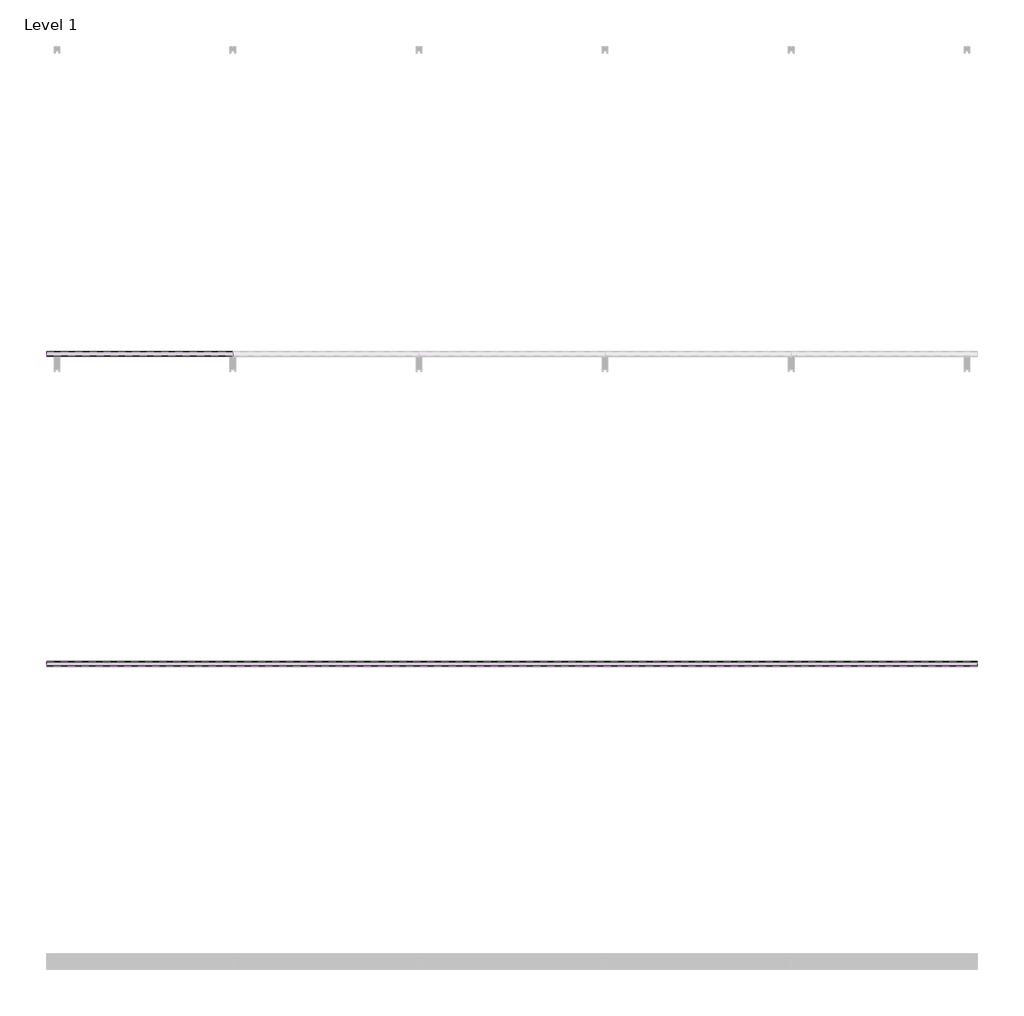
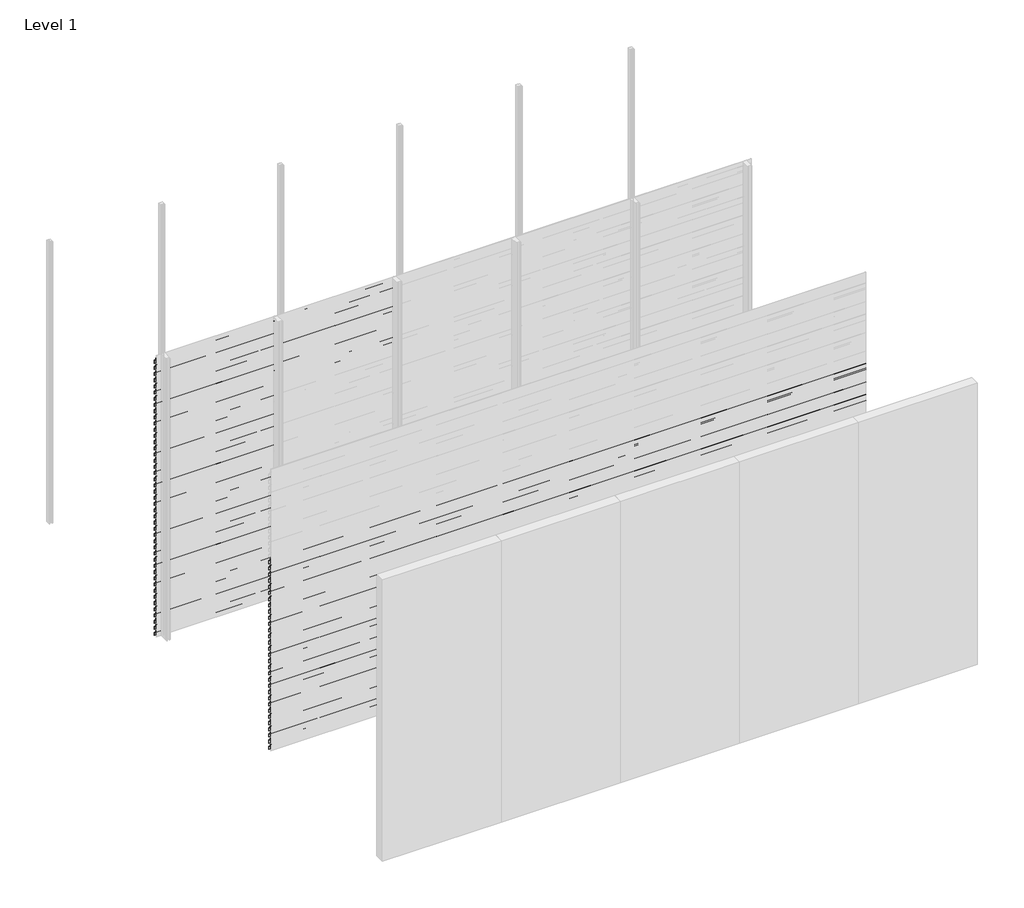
# One storey, part 22 of 33: 88 proxies.
"""IFC4 building model written with IfcOpenShell, lengths in millimetres."""

from ifc_helpers import new_model, si_unit, frame, origin, place, context, project, spatial, polyline, outline, extrude, element, save

model = new_model("IFC4")

# Units and contexts
model_context = context("Model", 3, world=origin())
ifc_project = project(units=[si_unit("LENGTHUNIT", "METRE", prefix="MILLI")], contexts=[model_context])

# Site, building, storey
site = spatial("IfcSite", under=ifc_project)
building = spatial("IfcBuilding", under=site)
storey = spatial("IfcBuildingStorey", under=building, Name="Level 1", Elevation=0.0)

# Proxies
placement = place(None, origin())
element("IfcBuildingElementProxy", 1, Name="Wall Sweeps", at=placement, inside=storey, context=model_context, shape_type="SweptSolid", body=[
    extrude(outline(polyline([(-17967.0, 2930.0), (-17967.0, 2897.0), (-17968.25, 2897.7216933), (-17968.25, 2929.2872415), (-17998.0, 2950.0588647), (-17998.0, 2970.0), (-17996.75, 2970.0), (-17996.75, 2950.7716232), (-17967.0, 2930.0)])), frame((0.0, 0.0, 0.0), z_axis=(1.0, 0.0, 0.0), x_axis=(0.0, 1.0, 0.0)), (0.0, 0.0, 1.0), 1200.0),
])
element("IfcBuildingElementProxy", 2, Name="Wall Sweeps", at=placement, inside=storey, context=model_context, shape_type="SweptSolid", body=[
    extrude(outline(polyline([(-17967.0, 2864.0), (-17967.0, 2831.0), (-17968.25, 2831.7216933), (-17968.25, 2863.2872415), (-17998.0, 2884.0588647), (-17998.0, 2904.0), (-17996.75, 2904.0), (-17996.75, 2884.7716232), (-17967.0, 2864.0)])), frame((0.0, 0.0, 0.0), z_axis=(1.0, 0.0, 0.0), x_axis=(0.0, 1.0, 0.0)), (0.0, 0.0, 1.0), 1200.0),
])
element("IfcBuildingElementProxy", 3, Name="Wall Sweeps", at=placement, inside=storey, context=model_context, shape_type="SweptSolid", body=[
    extrude(outline(polyline([(-17967.0, 2798.0), (-17967.0, 2765.0), (-17968.25, 2765.7216933), (-17968.25, 2797.2872415), (-17998.0, 2818.0588647), (-17998.0, 2838.0), (-17996.75, 2838.0), (-17996.75, 2818.7716232), (-17967.0, 2798.0)])), frame((0.0, 0.0, 0.0), z_axis=(1.0, 0.0, 0.0), x_axis=(0.0, 1.0, 0.0)), (0.0, 0.0, 1.0), 1200.0),
])
element("IfcBuildingElementProxy", 4, Name="Wall Sweeps", at=placement, inside=storey, context=model_context, shape_type="SweptSolid", body=[
    extrude(outline(polyline([(-17967.0, 2732.0), (-17967.0, 2699.0), (-17968.25, 2699.7216933), (-17968.25, 2731.2872415), (-17998.0, 2752.0588647), (-17998.0, 2772.0), (-17996.75, 2772.0), (-17996.75, 2752.7716232), (-17967.0, 2732.0)])), frame((0.0, 0.0, 0.0), z_axis=(1.0, 0.0, 0.0), x_axis=(0.0, 1.0, 0.0)), (0.0, 0.0, 1.0), 1200.0),
])
element("IfcBuildingElementProxy", 5, Name="Wall Sweeps", at=placement, inside=storey, context=model_context, shape_type="SweptSolid", body=[
    extrude(outline(polyline([(-17967.0, 2666.0), (-17967.0, 2633.0), (-17968.25, 2633.7216933), (-17968.25, 2665.2872415), (-17998.0, 2686.0588647), (-17998.0, 2706.0), (-17996.75, 2706.0), (-17996.75, 2686.7716232), (-17967.0, 2666.0)])), frame((0.0, 0.0, 0.0), z_axis=(1.0, 0.0, 0.0), x_axis=(0.0, 1.0, 0.0)), (0.0, 0.0, 1.0), 1200.0),
])
element("IfcBuildingElementProxy", 6, Name="Wall Sweeps", at=placement, inside=storey, context=model_context, shape_type="SweptSolid", body=[
    extrude(outline(polyline([(-17967.0, 2600.0), (-17967.0, 2567.0), (-17968.25, 2567.7216933), (-17968.25, 2599.2872415), (-17998.0, 2620.0588647), (-17998.0, 2640.0), (-17996.75, 2640.0), (-17996.75, 2620.7716232), (-17967.0, 2600.0)])), frame((0.0, 0.0, 0.0), z_axis=(1.0, 0.0, 0.0), x_axis=(0.0, 1.0, 0.0)), (0.0, 0.0, 1.0), 1200.0),
])
element("IfcBuildingElementProxy", 7, Name="Wall Sweeps", at=placement, inside=storey, context=model_context, shape_type="SweptSolid", body=[
    extrude(outline(polyline([(-17967.0, 2534.0), (-17967.0, 2501.0), (-17968.25, 2501.7216933), (-17968.25, 2533.2872415), (-17998.0, 2554.0588647), (-17998.0, 2574.0), (-17996.75, 2574.0), (-17996.75, 2554.7716232), (-17967.0, 2534.0)])), frame((0.0, 0.0, 0.0), z_axis=(1.0, 0.0, 0.0), x_axis=(0.0, 1.0, 0.0)), (0.0, 0.0, 1.0), 1200.0),
])
element("IfcBuildingElementProxy", 8, Name="Wall Sweeps", at=placement, inside=storey, context=model_context, shape_type="SweptSolid", body=[
    extrude(outline(polyline([(-17967.0, 2468.0), (-17967.0, 2435.0), (-17968.25, 2435.7216933), (-17968.25, 2467.2872415), (-17998.0, 2488.0588647), (-17998.0, 2508.0), (-17996.75, 2508.0), (-17996.75, 2488.7716232), (-17967.0, 2468.0)])), frame((0.0, 0.0, 0.0), z_axis=(1.0, 0.0, 0.0), x_axis=(0.0, 1.0, 0.0)), (0.0, 0.0, 1.0), 1200.0),
])
element("IfcBuildingElementProxy", 9, Name="Wall Sweeps", at=placement, inside=storey, context=model_context, shape_type="SweptSolid", body=[
    extrude(outline(polyline([(-17967.0, 2402.0), (-17967.0, 2369.0), (-17968.25, 2369.7216933), (-17968.25, 2401.2872415), (-17998.0, 2422.0588647), (-17998.0, 2442.0), (-17996.75, 2442.0), (-17996.75, 2422.7716232), (-17967.0, 2402.0)])), frame((0.0, 0.0, 0.0), z_axis=(1.0, 0.0, 0.0), x_axis=(0.0, 1.0, 0.0)), (0.0, 0.0, 1.0), 1200.0),
])
element("IfcBuildingElementProxy", 10, Name="Wall Sweeps", at=placement, inside=storey, context=model_context, shape_type="SweptSolid", body=[
    extrude(outline(polyline([(-17967.0, 2336.0), (-17967.0, 2303.0), (-17968.25, 2303.7216933), (-17968.25, 2335.2872415), (-17998.0, 2356.0588647), (-17998.0, 2376.0), (-17996.75, 2376.0), (-17996.75, 2356.7716232), (-17967.0, 2336.0)])), frame((0.0, 0.0, 0.0), z_axis=(1.0, 0.0, 0.0), x_axis=(0.0, 1.0, 0.0)), (0.0, 0.0, 1.0), 1200.0),
])
element("IfcBuildingElementProxy", 11, Name="Wall Sweeps", at=placement, inside=storey, context=model_context, shape_type="SweptSolid", body=[
    extrude(outline(polyline([(-17967.0, 2270.0), (-17967.0, 2237.0), (-17968.25, 2237.7216933), (-17968.25, 2269.2872415), (-17998.0, 2290.0588647), (-17998.0, 2310.0), (-17996.75, 2310.0), (-17996.75, 2290.7716232), (-17967.0, 2270.0)])), frame((0.0, 0.0, 0.0), z_axis=(1.0, 0.0, 0.0), x_axis=(0.0, 1.0, 0.0)), (0.0, 0.0, 1.0), 1200.0),
])
element("IfcBuildingElementProxy", 12, Name="Wall Sweeps", at=placement, inside=storey, context=model_context, shape_type="SweptSolid", body=[
    extrude(outline(polyline([(-17967.0, 2204.0), (-17967.0, 2171.0), (-17968.25, 2171.7216933), (-17968.25, 2203.2872415), (-17998.0, 2224.0588647), (-17998.0, 2244.0), (-17996.75, 2244.0), (-17996.75, 2224.7716232), (-17967.0, 2204.0)])), frame((0.0, 0.0, 0.0), z_axis=(1.0, 0.0, 0.0), x_axis=(0.0, 1.0, 0.0)), (0.0, 0.0, 1.0), 1200.0),
])
element("IfcBuildingElementProxy", 13, Name="Wall Sweeps", at=placement, inside=storey, context=model_context, shape_type="SweptSolid", body=[
    extrude(outline(polyline([(-17967.0, 2138.0), (-17967.0, 2105.0), (-17968.25, 2105.7216933), (-17968.25, 2137.2872415), (-17998.0, 2158.0588647), (-17998.0, 2178.0), (-17996.75, 2178.0), (-17996.75, 2158.7716232), (-17967.0, 2138.0)])), frame((0.0, 0.0, 0.0), z_axis=(1.0, 0.0, 0.0), x_axis=(0.0, 1.0, 0.0)), (0.0, 0.0, 1.0), 1200.0),
])
element("IfcBuildingElementProxy", 14, Name="Wall Sweeps", at=placement, inside=storey, context=model_context, shape_type="SweptSolid", body=[
    extrude(outline(polyline([(-17967.0, 2072.0), (-17967.0, 2039.0), (-17968.25, 2039.7216933), (-17968.25, 2071.2872415), (-17998.0, 2092.0588647), (-17998.0, 2112.0), (-17996.75, 2112.0), (-17996.75, 2092.7716232), (-17967.0, 2072.0)])), frame((0.0, 0.0, 0.0), z_axis=(1.0, 0.0, 0.0), x_axis=(0.0, 1.0, 0.0)), (0.0, 0.0, 1.0), 1200.0),
])
element("IfcBuildingElementProxy", 15, Name="Wall Sweeps", at=placement, inside=storey, context=model_context, shape_type="SweptSolid", body=[
    extrude(outline(polyline([(-17967.0, 2006.0), (-17967.0, 1973.0), (-17968.25, 1973.7216933), (-17968.25, 2005.2872415), (-17998.0, 2026.0588647), (-17998.0, 2046.0), (-17996.75, 2046.0), (-17996.75, 2026.7716232), (-17967.0, 2006.0)])), frame((0.0, 0.0, 0.0), z_axis=(1.0, 0.0, 0.0), x_axis=(0.0, 1.0, 0.0)), (0.0, 0.0, 1.0), 1200.0),
])
element("IfcBuildingElementProxy", 16, Name="Wall Sweeps", at=placement, inside=storey, context=model_context, shape_type="SweptSolid", body=[
    extrude(outline(polyline([(-17967.0, 1940.0), (-17967.0, 1907.0), (-17968.25, 1907.7216933), (-17968.25, 1939.2872415), (-17998.0, 1960.0588647), (-17998.0, 1980.0), (-17996.75, 1980.0), (-17996.75, 1960.7716232), (-17967.0, 1940.0)])), frame((0.0, 0.0, 0.0), z_axis=(1.0, 0.0, 0.0), x_axis=(0.0, 1.0, 0.0)), (0.0, 0.0, 1.0), 1200.0),
])
element("IfcBuildingElementProxy", 17, Name="Wall Sweeps", at=placement, inside=storey, context=model_context, shape_type="SweptSolid", body=[
    extrude(outline(polyline([(-17967.0, 1874.0), (-17967.0, 1841.0), (-17968.25, 1841.7216933), (-17968.25, 1873.2872415), (-17998.0, 1894.0588647), (-17998.0, 1914.0), (-17996.75, 1914.0), (-17996.75, 1894.7716232), (-17967.0, 1874.0)])), frame((0.0, 0.0, 0.0), z_axis=(1.0, 0.0, 0.0), x_axis=(0.0, 1.0, 0.0)), (0.0, 0.0, 1.0), 1200.0),
])
element("IfcBuildingElementProxy", 18, Name="Wall Sweeps", at=placement, inside=storey, context=model_context, shape_type="SweptSolid", body=[
    extrude(outline(polyline([(-17967.0, 1808.0), (-17967.0, 1775.0), (-17968.25, 1775.7216933), (-17968.25, 1807.2872415), (-17998.0, 1828.0588647), (-17998.0, 1848.0), (-17996.75, 1848.0), (-17996.75, 1828.7716232), (-17967.0, 1808.0)])), frame((0.0, 0.0, 0.0), z_axis=(1.0, 0.0, 0.0), x_axis=(0.0, 1.0, 0.0)), (0.0, 0.0, 1.0), 1200.0),
])
element("IfcBuildingElementProxy", 19, Name="Wall Sweeps", at=placement, inside=storey, context=model_context, shape_type="SweptSolid", body=[
    extrude(outline(polyline([(-17967.0, 1742.0), (-17967.0, 1709.0), (-17968.25, 1709.7216933), (-17968.25, 1741.2872415), (-17998.0, 1762.0588647), (-17998.0, 1782.0), (-17996.75, 1782.0), (-17996.75, 1762.7716232), (-17967.0, 1742.0)])), frame((0.0, 0.0, 0.0), z_axis=(1.0, 0.0, 0.0), x_axis=(0.0, 1.0, 0.0)), (0.0, 0.0, 1.0), 1200.0),
])
element("IfcBuildingElementProxy", 20, Name="Wall Sweeps", at=placement, inside=storey, context=model_context, shape_type="SweptSolid", body=[
    extrude(outline(polyline([(-17967.0, 1676.0), (-17967.0, 1643.0), (-17968.25, 1643.7216933), (-17968.25, 1675.2872415), (-17998.0, 1696.0588647), (-17998.0, 1716.0), (-17996.75, 1716.0), (-17996.75, 1696.7716232), (-17967.0, 1676.0)])), frame((0.0, 0.0, 0.0), z_axis=(1.0, 0.0, 0.0), x_axis=(0.0, 1.0, 0.0)), (0.0, 0.0, 1.0), 1200.0),
])
element("IfcBuildingElementProxy", 21, Name="Wall Sweeps", at=placement, inside=storey, context=model_context, shape_type="SweptSolid", body=[
    extrude(outline(polyline([(-17967.0, 1610.0), (-17967.0, 1577.0), (-17968.25, 1577.7216933), (-17968.25, 1609.2872415), (-17998.0, 1630.0588647), (-17998.0, 1650.0), (-17996.75, 1650.0), (-17996.75, 1630.7716232), (-17967.0, 1610.0)])), frame((0.0, 0.0, 0.0), z_axis=(1.0, 0.0, 0.0), x_axis=(0.0, 1.0, 0.0)), (0.0, 0.0, 1.0), 1200.0),
])
element("IfcBuildingElementProxy", 22, Name="Wall Sweeps", at=placement, inside=storey, context=model_context, shape_type="SweptSolid", body=[
    extrude(outline(polyline([(-17967.0, 1544.0), (-17967.0, 1511.0), (-17968.25, 1511.7216933), (-17968.25, 1543.2872415), (-17998.0, 1564.0588647), (-17998.0, 1584.0), (-17996.75, 1584.0), (-17996.75, 1564.7716232), (-17967.0, 1544.0)])), frame((0.0, 0.0, 0.0), z_axis=(1.0, 0.0, 0.0), x_axis=(0.0, 1.0, 0.0)), (0.0, 0.0, 1.0), 1200.0),
])
element("IfcBuildingElementProxy", 23, Name="Wall Sweeps", at=placement, inside=storey, context=model_context, shape_type="SweptSolid", body=[
    extrude(outline(polyline([(-17967.0, 1478.0), (-17967.0, 1445.0), (-17968.25, 1445.7216933), (-17968.25, 1477.2872415), (-17998.0, 1498.0588647), (-17998.0, 1518.0), (-17996.75, 1518.0), (-17996.75, 1498.7716232), (-17967.0, 1478.0)])), frame((0.0, 0.0, 0.0), z_axis=(1.0, 0.0, 0.0), x_axis=(0.0, 1.0, 0.0)), (0.0, 0.0, 1.0), 1200.0),
])
element("IfcBuildingElementProxy", 24, Name="Wall Sweeps", at=placement, inside=storey, context=model_context, shape_type="SweptSolid", body=[
    extrude(outline(polyline([(-17967.0, 1412.0), (-17967.0, 1379.0), (-17968.25, 1379.7216933), (-17968.25, 1411.2872415), (-17998.0, 1432.0588647), (-17998.0, 1452.0), (-17996.75, 1452.0), (-17996.75, 1432.7716232), (-17967.0, 1412.0)])), frame((0.0, 0.0, 0.0), z_axis=(1.0, 0.0, 0.0), x_axis=(0.0, 1.0, 0.0)), (0.0, 0.0, 1.0), 1200.0),
])
element("IfcBuildingElementProxy", 25, Name="Wall Sweeps", at=placement, inside=storey, context=model_context, shape_type="SweptSolid", body=[
    extrude(outline(polyline([(-17967.0, 1346.0), (-17967.0, 1313.0), (-17968.25, 1313.7216933), (-17968.25, 1345.2872415), (-17998.0, 1366.0588647), (-17998.0, 1386.0), (-17996.75, 1386.0), (-17996.75, 1366.7716232), (-17967.0, 1346.0)])), frame((0.0, 0.0, 0.0), z_axis=(1.0, 0.0, 0.0), x_axis=(0.0, 1.0, 0.0)), (0.0, 0.0, 1.0), 1200.0),
])
element("IfcBuildingElementProxy", 26, Name="Wall Sweeps", at=placement, inside=storey, context=model_context, shape_type="SweptSolid", body=[
    extrude(outline(polyline([(-17967.0, 1280.0), (-17967.0, 1247.0), (-17968.25, 1247.7216933), (-17968.25, 1279.2872415), (-17998.0, 1300.0588647), (-17998.0, 1320.0), (-17996.75, 1320.0), (-17996.75, 1300.7716232), (-17967.0, 1280.0)])), frame((0.0, 0.0, 0.0), z_axis=(1.0, 0.0, 0.0), x_axis=(0.0, 1.0, 0.0)), (0.0, 0.0, 1.0), 1200.0),
])
element("IfcBuildingElementProxy", 27, Name="Wall Sweeps", at=placement, inside=storey, context=model_context, shape_type="SweptSolid", body=[
    extrude(outline(polyline([(-17967.0, 1214.0), (-17967.0, 1181.0), (-17968.25, 1181.7216933), (-17968.25, 1213.2872415), (-17998.0, 1234.0588647), (-17998.0, 1254.0), (-17996.75, 1254.0), (-17996.75, 1234.7716232), (-17967.0, 1214.0)])), frame((0.0, 0.0, 0.0), z_axis=(1.0, 0.0, 0.0), x_axis=(0.0, 1.0, 0.0)), (0.0, 0.0, 1.0), 1200.0),
])
element("IfcBuildingElementProxy", 28, Name="Wall Sweeps", at=placement, inside=storey, context=model_context, shape_type="SweptSolid", body=[
    extrude(outline(polyline([(-17967.0, 1148.0), (-17967.0, 1115.0), (-17968.25, 1115.7216933), (-17968.25, 1147.2872415), (-17998.0, 1168.0588647), (-17998.0, 1188.0), (-17996.75, 1188.0), (-17996.75, 1168.7716232), (-17967.0, 1148.0)])), frame((0.0, 0.0, 0.0), z_axis=(1.0, 0.0, 0.0), x_axis=(0.0, 1.0, 0.0)), (0.0, 0.0, 1.0), 1200.0),
])
element("IfcBuildingElementProxy", 29, Name="Wall Sweeps", at=placement, inside=storey, context=model_context, shape_type="SweptSolid", body=[
    extrude(outline(polyline([(-17967.0, 1082.0), (-17967.0, 1049.0), (-17968.25, 1049.7216933), (-17968.25, 1081.2872415), (-17998.0, 1102.0588647), (-17998.0, 1122.0), (-17996.75, 1122.0), (-17996.75, 1102.7716232), (-17967.0, 1082.0)])), frame((0.0, 0.0, 0.0), z_axis=(1.0, 0.0, 0.0), x_axis=(0.0, 1.0, 0.0)), (0.0, 0.0, 1.0), 1200.0),
])
element("IfcBuildingElementProxy", 30, Name="Wall Sweeps", at=placement, inside=storey, context=model_context, shape_type="SweptSolid", body=[
    extrude(outline(polyline([(-17967.0, 1016.0), (-17967.0, 983.0), (-17968.25, 983.7216933), (-17968.25, 1015.2872415), (-17998.0, 1036.0588647), (-17998.0, 1056.0), (-17996.75, 1056.0), (-17996.75, 1036.7716232), (-17967.0, 1016.0)])), frame((0.0, 0.0, 0.0), z_axis=(1.0, 0.0, 0.0), x_axis=(0.0, 1.0, 0.0)), (0.0, 0.0, 1.0), 1200.0),
])
element("IfcBuildingElementProxy", 31, Name="Wall Sweeps", at=placement, inside=storey, context=model_context, shape_type="SweptSolid", body=[
    extrude(outline(polyline([(-17967.0, 950.0), (-17967.0, 917.0), (-17968.25, 917.7216933), (-17968.25, 949.2872415), (-17998.0, 970.0588647), (-17998.0, 990.0), (-17996.75, 990.0), (-17996.75, 970.7716232), (-17967.0, 950.0)])), frame((0.0, 0.0, 0.0), z_axis=(1.0, 0.0, 0.0), x_axis=(0.0, 1.0, 0.0)), (0.0, 0.0, 1.0), 1200.0),
])
element("IfcBuildingElementProxy", 32, Name="Wall Sweeps", at=placement, inside=storey, context=model_context, shape_type="SweptSolid", body=[
    extrude(outline(polyline([(-17967.0, 884.0), (-17967.0, 851.0), (-17968.25, 851.7216933), (-17968.25, 883.2872415), (-17998.0, 904.0588647), (-17998.0, 924.0), (-17996.75, 924.0), (-17996.75, 904.7716232), (-17967.0, 884.0)])), frame((0.0, 0.0, 0.0), z_axis=(1.0, 0.0, 0.0), x_axis=(0.0, 1.0, 0.0)), (0.0, 0.0, 1.0), 1200.0),
])
element("IfcBuildingElementProxy", 33, Name="Wall Sweeps", at=placement, inside=storey, context=model_context, shape_type="SweptSolid", body=[
    extrude(outline(polyline([(-17967.0, 818.0), (-17967.0, 785.0), (-17968.25, 785.7216933), (-17968.25, 817.2872415), (-17998.0, 838.0588647), (-17998.0, 858.0), (-17996.75, 858.0), (-17996.75, 838.7716232), (-17967.0, 818.0)])), frame((0.0, 0.0, 0.0), z_axis=(1.0, 0.0, 0.0), x_axis=(0.0, 1.0, 0.0)), (0.0, 0.0, 1.0), 1200.0),
])
element("IfcBuildingElementProxy", 34, Name="Wall Sweeps", at=placement, inside=storey, context=model_context, shape_type="SweptSolid", body=[
    extrude(outline(polyline([(-17967.0, 752.0), (-17967.0, 719.0), (-17968.25, 719.7216933), (-17968.25, 751.2872415), (-17998.0, 772.0588647), (-17998.0, 792.0), (-17996.75, 792.0), (-17996.75, 772.7716232), (-17967.0, 752.0)])), frame((0.0, 0.0, 0.0), z_axis=(1.0, 0.0, 0.0), x_axis=(0.0, 1.0, 0.0)), (0.0, 0.0, 1.0), 1200.0),
])
element("IfcBuildingElementProxy", 35, Name="Wall Sweeps", at=placement, inside=storey, context=model_context, shape_type="SweptSolid", body=[
    extrude(outline(polyline([(-17967.0, 686.0), (-17967.0, 653.0), (-17968.25, 653.7216933), (-17968.25, 685.2872415), (-17998.0, 706.0588647), (-17998.0, 726.0), (-17996.75, 726.0), (-17996.75, 706.7716232), (-17967.0, 686.0)])), frame((0.0, 0.0, 0.0), z_axis=(1.0, 0.0, 0.0), x_axis=(0.0, 1.0, 0.0)), (0.0, 0.0, 1.0), 1200.0),
])
element("IfcBuildingElementProxy", 36, Name="Wall Sweeps", at=placement, inside=storey, context=model_context, shape_type="SweptSolid", body=[
    extrude(outline(polyline([(-17967.0, 620.0), (-17967.0, 587.0), (-17968.25, 587.7216933), (-17968.25, 619.2872415), (-17998.0, 640.0588647), (-17998.0, 660.0), (-17996.75, 660.0), (-17996.75, 640.7716232), (-17967.0, 620.0)])), frame((0.0, 0.0, 0.0), z_axis=(1.0, 0.0, 0.0), x_axis=(0.0, 1.0, 0.0)), (0.0, 0.0, 1.0), 1200.0),
])
element("IfcBuildingElementProxy", 37, Name="Wall Sweeps", at=placement, inside=storey, context=model_context, shape_type="SweptSolid", body=[
    extrude(outline(polyline([(-17967.0, 554.0), (-17967.0, 521.0), (-17968.25, 521.7216933), (-17968.25, 553.2872415), (-17998.0, 574.0588647), (-17998.0, 594.0), (-17996.75, 594.0), (-17996.75, 574.7716232), (-17967.0, 554.0)])), frame((0.0, 0.0, 0.0), z_axis=(1.0, 0.0, 0.0), x_axis=(0.0, 1.0, 0.0)), (0.0, 0.0, 1.0), 1200.0),
])
element("IfcBuildingElementProxy", 38, Name="Wall Sweeps", at=placement, inside=storey, context=model_context, shape_type="SweptSolid", body=[
    extrude(outline(polyline([(-17967.0, 488.0), (-17967.0, 455.0), (-17968.25, 455.7216933), (-17968.25, 487.2872415), (-17998.0, 508.0588647), (-17998.0, 528.0), (-17996.75, 528.0), (-17996.75, 508.7716232), (-17967.0, 488.0)])), frame((0.0, 0.0, 0.0), z_axis=(1.0, 0.0, 0.0), x_axis=(0.0, 1.0, 0.0)), (0.0, 0.0, 1.0), 1200.0),
])
element("IfcBuildingElementProxy", 39, Name="Wall Sweeps", at=placement, inside=storey, context=model_context, shape_type="SweptSolid", body=[
    extrude(outline(polyline([(-17967.0, 422.0), (-17967.0, 389.0), (-17968.25, 389.7216933), (-17968.25, 421.2872415), (-17998.0, 442.0588647), (-17998.0, 462.0), (-17996.75, 462.0), (-17996.75, 442.7716232), (-17967.0, 422.0)])), frame((0.0, 0.0, 0.0), z_axis=(1.0, 0.0, 0.0), x_axis=(0.0, 1.0, 0.0)), (0.0, 0.0, 1.0), 1200.0),
])
element("IfcBuildingElementProxy", 40, Name="Wall Sweeps", at=placement, inside=storey, context=model_context, shape_type="SweptSolid", body=[
    extrude(outline(polyline([(-17967.0, 356.0), (-17967.0, 323.0), (-17968.25, 323.7216933), (-17968.25, 355.2872415), (-17998.0, 376.0588647), (-17998.0, 396.0), (-17996.75, 396.0), (-17996.75, 376.7716232), (-17967.0, 356.0)])), frame((0.0, 0.0, 0.0), z_axis=(1.0, 0.0, 0.0), x_axis=(0.0, 1.0, 0.0)), (0.0, 0.0, 1.0), 1200.0),
])
element("IfcBuildingElementProxy", 41, Name="Wall Sweeps", at=placement, inside=storey, context=model_context, shape_type="SweptSolid", body=[
    extrude(outline(polyline([(-17967.0, 290.0), (-17967.0, 257.0), (-17968.25, 257.7216933), (-17968.25, 289.2872415), (-17998.0, 310.0588647), (-17998.0, 330.0), (-17996.75, 330.0), (-17996.75, 310.7716232), (-17967.0, 290.0)])), frame((0.0, 0.0, 0.0), z_axis=(1.0, 0.0, 0.0), x_axis=(0.0, 1.0, 0.0)), (0.0, 0.0, 1.0), 1200.0),
])
element("IfcBuildingElementProxy", 42, Name="Wall Sweeps", at=placement, inside=storey, context=model_context, shape_type="SweptSolid", body=[
    extrude(outline(polyline([(-17967.0, 224.0), (-17967.0, 191.0), (-17968.25, 191.7216933), (-17968.25, 223.2872415), (-17998.0, 244.0588647), (-17998.0, 264.0), (-17996.75, 264.0), (-17996.75, 244.7716232), (-17967.0, 224.0)])), frame((0.0, 0.0, 0.0), z_axis=(1.0, 0.0, 0.0), x_axis=(0.0, 1.0, 0.0)), (0.0, 0.0, 1.0), 1200.0),
])
element("IfcBuildingElementProxy", 43, Name="Wall Sweeps", at=placement, inside=storey, context=model_context, shape_type="SweptSolid", body=[
    extrude(outline(polyline([(-17967.0, 158.0), (-17967.0, 125.0), (-17968.25, 125.7216933), (-17968.25, 157.2872415), (-17998.0, 178.0588647), (-17998.0, 198.0), (-17996.75, 198.0), (-17996.75, 178.7716232), (-17967.0, 158.0)])), frame((0.0, 0.0, 0.0), z_axis=(1.0, 0.0, 0.0), x_axis=(0.0, 1.0, 0.0)), (0.0, 0.0, 1.0), 1200.0),
])
element("IfcBuildingElementProxy", 44, Name="Wall Sweeps", at=placement, inside=storey, context=model_context, shape_type="SweptSolid", body=[
    extrude(outline(polyline([(-17967.0, 92.0), (-17967.0, 59.0), (-17968.25, 59.7216933), (-17968.25, 91.2872415), (-17998.0, 112.0588647), (-17998.0, 132.0), (-17996.75, 132.0), (-17996.75, 112.7716232), (-17967.0, 92.0)])), frame((0.0, 0.0, 0.0), z_axis=(1.0, 0.0, 0.0), x_axis=(0.0, 1.0, 0.0)), (0.0, 0.0, 1.0), 1200.0),
])
element("IfcBuildingElementProxy", 45, Name="Wall Sweeps", at=placement, inside=storey, context=model_context, shape_type="SweptSolid", body=[
    extrude(outline(polyline([(-17967.0, 26.0), (-17967.0, -7.0), (-17968.25, -6.2783067), (-17968.25, 25.2872415), (-17998.0, 46.0588647), (-17998.0, 66.0), (-17996.75, 66.0), (-17996.75, 46.7716232), (-17967.0, 26.0)])), frame((0.0, 0.0, 0.0), z_axis=(1.0, 0.0, 0.0), x_axis=(0.0, 1.0, 0.0)), (0.0, 0.0, 1.0), 1200.0),
])
element("IfcBuildingElementProxy", 46, Name="Wall Sweeps", at=placement, inside=storey, context=model_context, shape_type="SweptSolid", body=[
    extrude(outline(polyline([(-17967.0, 2930.0), (-17967.0, 2897.0), (-17968.25, 2897.7216933), (-17968.25, 2929.2872415), (-17998.0, 2950.0588647), (-17998.0, 2970.0), (-17996.75, 2970.0), (-17996.75, 2950.7716232), (-17967.0, 2930.0)])), frame((1200.0, 0.0, 0.0), z_axis=(1.0, 0.0, 0.0), x_axis=(0.0, 1.0, 0.0)), (0.0, 0.0, 1.0), 1200.0),
])
element("IfcBuildingElementProxy", 47, Name="Wall Sweeps", at=placement, inside=storey, context=model_context, shape_type="SweptSolid", body=[
    extrude(outline(polyline([(-17967.0, 2864.0), (-17967.0, 2831.0), (-17968.25, 2831.7216933), (-17968.25, 2863.2872415), (-17998.0, 2884.0588647), (-17998.0, 2904.0), (-17996.75, 2904.0), (-17996.75, 2884.7716232), (-17967.0, 2864.0)])), frame((1200.0, 0.0, 0.0), z_axis=(1.0, 0.0, 0.0), x_axis=(0.0, 1.0, 0.0)), (0.0, 0.0, 1.0), 1200.0),
])
element("IfcBuildingElementProxy", 48, Name="Wall Sweeps", at=placement, inside=storey, context=model_context, shape_type="SweptSolid", body=[
    extrude(outline(polyline([(-17967.0, 2798.0), (-17967.0, 2765.0), (-17968.25, 2765.7216933), (-17968.25, 2797.2872415), (-17998.0, 2818.0588647), (-17998.0, 2838.0), (-17996.75, 2838.0), (-17996.75, 2818.7716232), (-17967.0, 2798.0)])), frame((1200.0, 0.0, 0.0), z_axis=(1.0, 0.0, 0.0), x_axis=(0.0, 1.0, 0.0)), (0.0, 0.0, 1.0), 1200.0),
])
element("IfcBuildingElementProxy", 49, Name="Wall Sweeps", at=placement, inside=storey, context=model_context, shape_type="SweptSolid", body=[
    extrude(outline(polyline([(-17967.0, 2732.0), (-17967.0, 2699.0), (-17968.25, 2699.7216933), (-17968.25, 2731.2872415), (-17998.0, 2752.0588647), (-17998.0, 2772.0), (-17996.75, 2772.0), (-17996.75, 2752.7716232), (-17967.0, 2732.0)])), frame((1200.0, 0.0, 0.0), z_axis=(1.0, 0.0, 0.0), x_axis=(0.0, 1.0, 0.0)), (0.0, 0.0, 1.0), 1200.0),
])
element("IfcBuildingElementProxy", 50, Name="Wall Sweeps", at=placement, inside=storey, context=model_context, shape_type="SweptSolid", body=[
    extrude(outline(polyline([(-17967.0, 2666.0), (-17967.0, 2633.0), (-17968.25, 2633.7216933), (-17968.25, 2665.2872415), (-17998.0, 2686.0588647), (-17998.0, 2706.0), (-17996.75, 2706.0), (-17996.75, 2686.7716232), (-17967.0, 2666.0)])), frame((1200.0, 0.0, 0.0), z_axis=(1.0, 0.0, 0.0), x_axis=(0.0, 1.0, 0.0)), (0.0, 0.0, 1.0), 1200.0),
])
element("IfcBuildingElementProxy", 51, Name="Wall Sweeps", at=placement, inside=storey, context=model_context, shape_type="SweptSolid", body=[
    extrude(outline(polyline([(-17967.0, 2600.0), (-17967.0, 2567.0), (-17968.25, 2567.7216933), (-17968.25, 2599.2872415), (-17998.0, 2620.0588647), (-17998.0, 2640.0), (-17996.75, 2640.0), (-17996.75, 2620.7716232), (-17967.0, 2600.0)])), frame((1200.0, 0.0, 0.0), z_axis=(1.0, 0.0, 0.0), x_axis=(0.0, 1.0, 0.0)), (0.0, 0.0, 1.0), 1200.0),
])
element("IfcBuildingElementProxy", 52, Name="Wall Sweeps", at=placement, inside=storey, context=model_context, shape_type="SweptSolid", body=[
    extrude(outline(polyline([(-17967.0, 2534.0), (-17967.0, 2501.0), (-17968.25, 2501.7216933), (-17968.25, 2533.2872415), (-17998.0, 2554.0588647), (-17998.0, 2574.0), (-17996.75, 2574.0), (-17996.75, 2554.7716232), (-17967.0, 2534.0)])), frame((1200.0, 0.0, 0.0), z_axis=(1.0, 0.0, 0.0), x_axis=(0.0, 1.0, 0.0)), (0.0, 0.0, 1.0), 1200.0),
])
element("IfcBuildingElementProxy", 53, Name="Wall Sweeps", at=placement, inside=storey, context=model_context, shape_type="SweptSolid", body=[
    extrude(outline(polyline([(-17967.0, 2468.0), (-17967.0, 2435.0), (-17968.25, 2435.7216933), (-17968.25, 2467.2872415), (-17998.0, 2488.0588647), (-17998.0, 2508.0), (-17996.75, 2508.0), (-17996.75, 2488.7716232), (-17967.0, 2468.0)])), frame((1200.0, 0.0, 0.0), z_axis=(1.0, 0.0, 0.0), x_axis=(0.0, 1.0, 0.0)), (0.0, 0.0, 1.0), 1200.0),
])
element("IfcBuildingElementProxy", 54, Name="Wall Sweeps", at=placement, inside=storey, context=model_context, shape_type="SweptSolid", body=[
    extrude(outline(polyline([(-17967.0, 2402.0), (-17967.0, 2369.0), (-17968.25, 2369.7216933), (-17968.25, 2401.2872415), (-17998.0, 2422.0588647), (-17998.0, 2442.0), (-17996.75, 2442.0), (-17996.75, 2422.7716232), (-17967.0, 2402.0)])), frame((1200.0, 0.0, 0.0), z_axis=(1.0, 0.0, 0.0), x_axis=(0.0, 1.0, 0.0)), (0.0, 0.0, 1.0), 1200.0),
])
element("IfcBuildingElementProxy", 55, Name="Wall Sweeps", at=placement, inside=storey, context=model_context, shape_type="SweptSolid", body=[
    extrude(outline(polyline([(-17967.0, 2336.0), (-17967.0, 2303.0), (-17968.25, 2303.7216933), (-17968.25, 2335.2872415), (-17998.0, 2356.0588647), (-17998.0, 2376.0), (-17996.75, 2376.0), (-17996.75, 2356.7716232), (-17967.0, 2336.0)])), frame((1200.0, 0.0, 0.0), z_axis=(1.0, 0.0, 0.0), x_axis=(0.0, 1.0, 0.0)), (0.0, 0.0, 1.0), 1200.0),
])
element("IfcBuildingElementProxy", 56, Name="Wall Sweeps", at=placement, inside=storey, context=model_context, shape_type="SweptSolid", body=[
    extrude(outline(polyline([(-17967.0, 2270.0), (-17967.0, 2237.0), (-17968.25, 2237.7216933), (-17968.25, 2269.2872415), (-17998.0, 2290.0588647), (-17998.0, 2310.0), (-17996.75, 2310.0), (-17996.75, 2290.7716232), (-17967.0, 2270.0)])), frame((1200.0, 0.0, 0.0), z_axis=(1.0, 0.0, 0.0), x_axis=(0.0, 1.0, 0.0)), (0.0, 0.0, 1.0), 1200.0),
])
element("IfcBuildingElementProxy", 57, Name="Wall Sweeps", at=placement, inside=storey, context=model_context, shape_type="SweptSolid", body=[
    extrude(outline(polyline([(-17967.0, 2204.0), (-17967.0, 2171.0), (-17968.25, 2171.7216933), (-17968.25, 2203.2872415), (-17998.0, 2224.0588647), (-17998.0, 2244.0), (-17996.75, 2244.0), (-17996.75, 2224.7716232), (-17967.0, 2204.0)])), frame((1200.0, 0.0, 0.0), z_axis=(1.0, 0.0, 0.0), x_axis=(0.0, 1.0, 0.0)), (0.0, 0.0, 1.0), 1200.0),
])
element("IfcBuildingElementProxy", 58, Name="Wall Sweeps", at=placement, inside=storey, context=model_context, shape_type="SweptSolid", body=[
    extrude(outline(polyline([(-19967.0, 2006.0), (-19967.0, 1973.0), (-19968.25, 1973.7216933), (-19968.25, 2005.2872415), (-19998.0, 2026.0588647), (-19998.0, 2046.0), (-19996.75, 2046.0), (-19996.75, 2026.7716232), (-19967.0, 2006.0)])), frame((0.0, 0.0, 0.0), z_axis=(1.0, 0.0, 0.0), x_axis=(0.0, 1.0, 0.0)), (0.0, 0.0, 1.0), 6000.0),
])
element("IfcBuildingElementProxy", 59, Name="Wall Sweeps", at=placement, inside=storey, context=model_context, shape_type="SweptSolid", body=[
    extrude(outline(polyline([(-19967.0, 1940.0), (-19967.0, 1907.0), (-19968.25, 1907.7216933), (-19968.25, 1939.2872415), (-19998.0, 1960.0588647), (-19998.0, 1980.0), (-19996.75, 1980.0), (-19996.75, 1960.7716232), (-19967.0, 1940.0)])), frame((0.0, 0.0, 0.0), z_axis=(1.0, 0.0, 0.0), x_axis=(0.0, 1.0, 0.0)), (0.0, 0.0, 1.0), 6000.0),
])
element("IfcBuildingElementProxy", 60, Name="Wall Sweeps", at=placement, inside=storey, context=model_context, shape_type="SweptSolid", body=[
    extrude(outline(polyline([(-19967.0, 1874.0), (-19967.0, 1841.0), (-19968.25, 1841.7216933), (-19968.25, 1873.2872415), (-19998.0, 1894.0588647), (-19998.0, 1914.0), (-19996.75, 1914.0), (-19996.75, 1894.7716232), (-19967.0, 1874.0)])), frame((0.0, 0.0, 0.0), z_axis=(1.0, 0.0, 0.0), x_axis=(0.0, 1.0, 0.0)), (0.0, 0.0, 1.0), 6000.0),
])
element("IfcBuildingElementProxy", 61, Name="Wall Sweeps", at=placement, inside=storey, context=model_context, shape_type="SweptSolid", body=[
    extrude(outline(polyline([(-19967.0, 1808.0), (-19967.0, 1775.0), (-19968.25, 1775.7216933), (-19968.25, 1807.2872415), (-19998.0, 1828.0588647), (-19998.0, 1848.0), (-19996.75, 1848.0), (-19996.75, 1828.7716232), (-19967.0, 1808.0)])), frame((0.0, 0.0, 0.0), z_axis=(1.0, 0.0, 0.0), x_axis=(0.0, 1.0, 0.0)), (0.0, 0.0, 1.0), 6000.0),
])
element("IfcBuildingElementProxy", 62, Name="Wall Sweeps", at=placement, inside=storey, context=model_context, shape_type="SweptSolid", body=[
    extrude(outline(polyline([(-19967.0, 1742.0), (-19967.0, 1709.0), (-19968.25, 1709.7216933), (-19968.25, 1741.2872415), (-19998.0, 1762.0588647), (-19998.0, 1782.0), (-19996.75, 1782.0), (-19996.75, 1762.7716232), (-19967.0, 1742.0)])), frame((0.0, 0.0, 0.0), z_axis=(1.0, 0.0, 0.0), x_axis=(0.0, 1.0, 0.0)), (0.0, 0.0, 1.0), 6000.0),
])
element("IfcBuildingElementProxy", 63, Name="Wall Sweeps", at=placement, inside=storey, context=model_context, shape_type="SweptSolid", body=[
    extrude(outline(polyline([(-19967.0, 1676.0), (-19967.0, 1643.0), (-19968.25, 1643.7216933), (-19968.25, 1675.2872415), (-19998.0, 1696.0588647), (-19998.0, 1716.0), (-19996.75, 1716.0), (-19996.75, 1696.7716232), (-19967.0, 1676.0)])), frame((0.0, 0.0, 0.0), z_axis=(1.0, 0.0, 0.0), x_axis=(0.0, 1.0, 0.0)), (0.0, 0.0, 1.0), 6000.0),
])
element("IfcBuildingElementProxy", 64, Name="Wall Sweeps", at=placement, inside=storey, context=model_context, shape_type="SweptSolid", body=[
    extrude(outline(polyline([(-19967.0, 1610.0), (-19967.0, 1577.0), (-19968.25, 1577.7216933), (-19968.25, 1609.2872415), (-19998.0, 1630.0588647), (-19998.0, 1650.0), (-19996.75, 1650.0), (-19996.75, 1630.7716232), (-19967.0, 1610.0)])), frame((0.0, 0.0, 0.0), z_axis=(1.0, 0.0, 0.0), x_axis=(0.0, 1.0, 0.0)), (0.0, 0.0, 1.0), 6000.0),
])
element("IfcBuildingElementProxy", 65, Name="Wall Sweeps", at=placement, inside=storey, context=model_context, shape_type="SweptSolid", body=[
    extrude(outline(polyline([(-19967.0, 1544.0), (-19967.0, 1511.0), (-19968.25, 1511.7216933), (-19968.25, 1543.2872415), (-19998.0, 1564.0588647), (-19998.0, 1584.0), (-19996.75, 1584.0), (-19996.75, 1564.7716232), (-19967.0, 1544.0)])), frame((0.0, 0.0, 0.0), z_axis=(1.0, 0.0, 0.0), x_axis=(0.0, 1.0, 0.0)), (0.0, 0.0, 1.0), 6000.0),
])
element("IfcBuildingElementProxy", 66, Name="Wall Sweeps", at=placement, inside=storey, context=model_context, shape_type="SweptSolid", body=[
    extrude(outline(polyline([(-19967.0, 1478.0), (-19967.0, 1445.0), (-19968.25, 1445.7216933), (-19968.25, 1477.2872415), (-19998.0, 1498.0588647), (-19998.0, 1518.0), (-19996.75, 1518.0), (-19996.75, 1498.7716232), (-19967.0, 1478.0)])), frame((0.0, 0.0, 0.0), z_axis=(1.0, 0.0, 0.0), x_axis=(0.0, 1.0, 0.0)), (0.0, 0.0, 1.0), 6000.0),
])
element("IfcBuildingElementProxy", 67, Name="Wall Sweeps", at=placement, inside=storey, context=model_context, shape_type="SweptSolid", body=[
    extrude(outline(polyline([(-19967.0, 1412.0), (-19967.0, 1379.0), (-19968.25, 1379.7216933), (-19968.25, 1411.2872415), (-19998.0, 1432.0588647), (-19998.0, 1452.0), (-19996.75, 1452.0), (-19996.75, 1432.7716232), (-19967.0, 1412.0)])), frame((0.0, 0.0, 0.0), z_axis=(1.0, 0.0, 0.0), x_axis=(0.0, 1.0, 0.0)), (0.0, 0.0, 1.0), 6000.0),
])
element("IfcBuildingElementProxy", 68, Name="Wall Sweeps", at=placement, inside=storey, context=model_context, shape_type="SweptSolid", body=[
    extrude(outline(polyline([(-19967.0, 1346.0), (-19967.0, 1313.0), (-19968.25, 1313.7216933), (-19968.25, 1345.2872415), (-19998.0, 1366.0588647), (-19998.0, 1386.0), (-19996.75, 1386.0), (-19996.75, 1366.7716232), (-19967.0, 1346.0)])), frame((0.0, 0.0, 0.0), z_axis=(1.0, 0.0, 0.0), x_axis=(0.0, 1.0, 0.0)), (0.0, 0.0, 1.0), 6000.0),
])
element("IfcBuildingElementProxy", 69, Name="Wall Sweeps", at=placement, inside=storey, context=model_context, shape_type="SweptSolid", body=[
    extrude(outline(polyline([(-19967.0, 1280.0), (-19967.0, 1247.0), (-19968.25, 1247.7216933), (-19968.25, 1279.2872415), (-19998.0, 1300.0588647), (-19998.0, 1320.0), (-19996.75, 1320.0), (-19996.75, 1300.7716232), (-19967.0, 1280.0)])), frame((0.0, 0.0, 0.0), z_axis=(1.0, 0.0, 0.0), x_axis=(0.0, 1.0, 0.0)), (0.0, 0.0, 1.0), 6000.0),
])
element("IfcBuildingElementProxy", 70, Name="Wall Sweeps", at=placement, inside=storey, context=model_context, shape_type="SweptSolid", body=[
    extrude(outline(polyline([(-19967.0, 1214.0), (-19967.0, 1181.0), (-19968.25, 1181.7216933), (-19968.25, 1213.2872415), (-19998.0, 1234.0588647), (-19998.0, 1254.0), (-19996.75, 1254.0), (-19996.75, 1234.7716232), (-19967.0, 1214.0)])), frame((0.0, 0.0, 0.0), z_axis=(1.0, 0.0, 0.0), x_axis=(0.0, 1.0, 0.0)), (0.0, 0.0, 1.0), 6000.0),
])
element("IfcBuildingElementProxy", 71, Name="Wall Sweeps", at=placement, inside=storey, context=model_context, shape_type="SweptSolid", body=[
    extrude(outline(polyline([(-19967.0, 1148.0), (-19967.0, 1115.0), (-19968.25, 1115.7216933), (-19968.25, 1147.2872415), (-19998.0, 1168.0588647), (-19998.0, 1188.0), (-19996.75, 1188.0), (-19996.75, 1168.7716232), (-19967.0, 1148.0)])), frame((0.0, 0.0, 0.0), z_axis=(1.0, 0.0, 0.0), x_axis=(0.0, 1.0, 0.0)), (0.0, 0.0, 1.0), 6000.0),
])
element("IfcBuildingElementProxy", 72, Name="Wall Sweeps", at=placement, inside=storey, context=model_context, shape_type="SweptSolid", body=[
    extrude(outline(polyline([(-19967.0, 1082.0), (-19967.0, 1049.0), (-19968.25, 1049.7216933), (-19968.25, 1081.2872415), (-19998.0, 1102.0588647), (-19998.0, 1122.0), (-19996.75, 1122.0), (-19996.75, 1102.7716232), (-19967.0, 1082.0)])), frame((0.0, 0.0, 0.0), z_axis=(1.0, 0.0, 0.0), x_axis=(0.0, 1.0, 0.0)), (0.0, 0.0, 1.0), 6000.0),
])
element("IfcBuildingElementProxy", 73, Name="Wall Sweeps", at=placement, inside=storey, context=model_context, shape_type="SweptSolid", body=[
    extrude(outline(polyline([(-19967.0, 1016.0), (-19967.0, 983.0), (-19968.25, 983.7216933), (-19968.25, 1015.2872415), (-19998.0, 1036.0588647), (-19998.0, 1056.0), (-19996.75, 1056.0), (-19996.75, 1036.7716232), (-19967.0, 1016.0)])), frame((0.0, 0.0, 0.0), z_axis=(1.0, 0.0, 0.0), x_axis=(0.0, 1.0, 0.0)), (0.0, 0.0, 1.0), 6000.0),
])
element("IfcBuildingElementProxy", 74, Name="Wall Sweeps", at=placement, inside=storey, context=model_context, shape_type="SweptSolid", body=[
    extrude(outline(polyline([(-19967.0, 950.0), (-19967.0, 917.0), (-19968.25, 917.7216933), (-19968.25, 949.2872415), (-19998.0, 970.0588647), (-19998.0, 990.0), (-19996.75, 990.0), (-19996.75, 970.7716232), (-19967.0, 950.0)])), frame((0.0, 0.0, 0.0), z_axis=(1.0, 0.0, 0.0), x_axis=(0.0, 1.0, 0.0)), (0.0, 0.0, 1.0), 6000.0),
])
element("IfcBuildingElementProxy", 75, Name="Wall Sweeps", at=placement, inside=storey, context=model_context, shape_type="SweptSolid", body=[
    extrude(outline(polyline([(-19967.0, 884.0), (-19967.0, 851.0), (-19968.25, 851.7216933), (-19968.25, 883.2872415), (-19998.0, 904.0588647), (-19998.0, 924.0), (-19996.75, 924.0), (-19996.75, 904.7716232), (-19967.0, 884.0)])), frame((0.0, 0.0, 0.0), z_axis=(1.0, 0.0, 0.0), x_axis=(0.0, 1.0, 0.0)), (0.0, 0.0, 1.0), 6000.0),
])
element("IfcBuildingElementProxy", 76, Name="Wall Sweeps", at=placement, inside=storey, context=model_context, shape_type="SweptSolid", body=[
    extrude(outline(polyline([(-19967.0, 818.0), (-19967.0, 785.0), (-19968.25, 785.7216933), (-19968.25, 817.2872415), (-19998.0, 838.0588647), (-19998.0, 858.0), (-19996.75, 858.0), (-19996.75, 838.7716232), (-19967.0, 818.0)])), frame((0.0, 0.0, 0.0), z_axis=(1.0, 0.0, 0.0), x_axis=(0.0, 1.0, 0.0)), (0.0, 0.0, 1.0), 6000.0),
])
element("IfcBuildingElementProxy", 77, Name="Wall Sweeps", at=placement, inside=storey, context=model_context, shape_type="SweptSolid", body=[
    extrude(outline(polyline([(-19967.0, 752.0), (-19967.0, 719.0), (-19968.25, 719.7216933), (-19968.25, 751.2872415), (-19998.0, 772.0588647), (-19998.0, 792.0), (-19996.75, 792.0), (-19996.75, 772.7716232), (-19967.0, 752.0)])), frame((0.0, 0.0, 0.0), z_axis=(1.0, 0.0, 0.0), x_axis=(0.0, 1.0, 0.0)), (0.0, 0.0, 1.0), 6000.0),
])
element("IfcBuildingElementProxy", 78, Name="Wall Sweeps", at=placement, inside=storey, context=model_context, shape_type="SweptSolid", body=[
    extrude(outline(polyline([(-19967.0, 686.0), (-19967.0, 653.0), (-19968.25, 653.7216933), (-19968.25, 685.2872415), (-19998.0, 706.0588647), (-19998.0, 726.0), (-19996.75, 726.0), (-19996.75, 706.7716232), (-19967.0, 686.0)])), frame((0.0, 0.0, 0.0), z_axis=(1.0, 0.0, 0.0), x_axis=(0.0, 1.0, 0.0)), (0.0, 0.0, 1.0), 6000.0),
])
element("IfcBuildingElementProxy", 79, Name="Wall Sweeps", at=placement, inside=storey, context=model_context, shape_type="SweptSolid", body=[
    extrude(outline(polyline([(-19967.0, 620.0), (-19967.0, 587.0), (-19968.25, 587.7216933), (-19968.25, 619.2872415), (-19998.0, 640.0588647), (-19998.0, 660.0), (-19996.75, 660.0), (-19996.75, 640.7716232), (-19967.0, 620.0)])), frame((0.0, 0.0, 0.0), z_axis=(1.0, 0.0, 0.0), x_axis=(0.0, 1.0, 0.0)), (0.0, 0.0, 1.0), 6000.0),
])
element("IfcBuildingElementProxy", 80, Name="Wall Sweeps", at=placement, inside=storey, context=model_context, shape_type="SweptSolid", body=[
    extrude(outline(polyline([(-19967.0, 554.0), (-19967.0, 521.0), (-19968.25, 521.7216933), (-19968.25, 553.2872415), (-19998.0, 574.0588647), (-19998.0, 594.0), (-19996.75, 594.0), (-19996.75, 574.7716232), (-19967.0, 554.0)])), frame((0.0, 0.0, 0.0), z_axis=(1.0, 0.0, 0.0), x_axis=(0.0, 1.0, 0.0)), (0.0, 0.0, 1.0), 6000.0),
])
element("IfcBuildingElementProxy", 81, Name="Wall Sweeps", at=placement, inside=storey, context=model_context, shape_type="SweptSolid", body=[
    extrude(outline(polyline([(-19967.0, 488.0), (-19967.0, 455.0), (-19968.25, 455.7216933), (-19968.25, 487.2872415), (-19998.0, 508.0588647), (-19998.0, 528.0), (-19996.75, 528.0), (-19996.75, 508.7716232), (-19967.0, 488.0)])), frame((0.0, 0.0, 0.0), z_axis=(1.0, 0.0, 0.0), x_axis=(0.0, 1.0, 0.0)), (0.0, 0.0, 1.0), 6000.0),
])
element("IfcBuildingElementProxy", 82, Name="Wall Sweeps", at=placement, inside=storey, context=model_context, shape_type="SweptSolid", body=[
    extrude(outline(polyline([(-19967.0, 422.0), (-19967.0, 389.0), (-19968.25, 389.7216933), (-19968.25, 421.2872415), (-19998.0, 442.0588647), (-19998.0, 462.0), (-19996.75, 462.0), (-19996.75, 442.7716232), (-19967.0, 422.0)])), frame((0.0, 0.0, 0.0), z_axis=(1.0, 0.0, 0.0), x_axis=(0.0, 1.0, 0.0)), (0.0, 0.0, 1.0), 6000.0),
])
element("IfcBuildingElementProxy", 83, Name="Wall Sweeps", at=placement, inside=storey, context=model_context, shape_type="SweptSolid", body=[
    extrude(outline(polyline([(-19967.0, 356.0), (-19967.0, 323.0), (-19968.25, 323.7216933), (-19968.25, 355.2872415), (-19998.0, 376.0588647), (-19998.0, 396.0), (-19996.75, 396.0), (-19996.75, 376.7716232), (-19967.0, 356.0)])), frame((0.0, 0.0, 0.0), z_axis=(1.0, 0.0, 0.0), x_axis=(0.0, 1.0, 0.0)), (0.0, 0.0, 1.0), 6000.0),
])
element("IfcBuildingElementProxy", 84, Name="Wall Sweeps", at=placement, inside=storey, context=model_context, shape_type="SweptSolid", body=[
    extrude(outline(polyline([(-19967.0, 290.0), (-19967.0, 257.0), (-19968.25, 257.7216933), (-19968.25, 289.2872415), (-19998.0, 310.0588647), (-19998.0, 330.0), (-19996.75, 330.0), (-19996.75, 310.7716232), (-19967.0, 290.0)])), frame((0.0, 0.0, 0.0), z_axis=(1.0, 0.0, 0.0), x_axis=(0.0, 1.0, 0.0)), (0.0, 0.0, 1.0), 6000.0),
])
element("IfcBuildingElementProxy", 85, Name="Wall Sweeps", at=placement, inside=storey, context=model_context, shape_type="SweptSolid", body=[
    extrude(outline(polyline([(-19967.0, 224.0), (-19967.0, 191.0), (-19968.25, 191.7216933), (-19968.25, 223.2872415), (-19998.0, 244.0588647), (-19998.0, 264.0), (-19996.75, 264.0), (-19996.75, 244.7716232), (-19967.0, 224.0)])), frame((0.0, 0.0, 0.0), z_axis=(1.0, 0.0, 0.0), x_axis=(0.0, 1.0, 0.0)), (0.0, 0.0, 1.0), 6000.0),
])
element("IfcBuildingElementProxy", 86, Name="Wall Sweeps", at=placement, inside=storey, context=model_context, shape_type="SweptSolid", body=[
    extrude(outline(polyline([(-19967.0, 158.0), (-19967.0, 125.0), (-19968.25, 125.7216933), (-19968.25, 157.2872415), (-19998.0, 178.0588647), (-19998.0, 198.0), (-19996.75, 198.0), (-19996.75, 178.7716232), (-19967.0, 158.0)])), frame((0.0, 0.0, 0.0), z_axis=(1.0, 0.0, 0.0), x_axis=(0.0, 1.0, 0.0)), (0.0, 0.0, 1.0), 6000.0),
])
element("IfcBuildingElementProxy", 87, Name="Wall Sweeps", at=placement, inside=storey, context=model_context, shape_type="SweptSolid", body=[
    extrude(outline(polyline([(-19967.0, 92.0), (-19967.0, 59.0), (-19968.25, 59.7216933), (-19968.25, 91.2872415), (-19998.0, 112.0588647), (-19998.0, 132.0), (-19996.75, 132.0), (-19996.75, 112.7716232), (-19967.0, 92.0)])), frame((0.0, 0.0, 0.0), z_axis=(1.0, 0.0, 0.0), x_axis=(0.0, 1.0, 0.0)), (0.0, 0.0, 1.0), 6000.0),
])
element("IfcBuildingElementProxy", 88, Name="Wall Sweeps", at=placement, inside=storey, context=model_context, shape_type="SweptSolid", body=[
    extrude(outline(polyline([(-19967.0, 26.0), (-19967.0, -7.0), (-19968.25, -6.2783067), (-19968.25, 25.2872415), (-19998.0, 46.0588647), (-19998.0, 66.0), (-19996.75, 66.0), (-19996.75, 46.7716232), (-19967.0, 26.0)])), frame((0.0, 0.0, 0.0), z_axis=(1.0, 0.0, 0.0), x_axis=(0.0, 1.0, 0.0)), (0.0, 0.0, 1.0), 6000.0),
])

save(model, "model.ifc")
